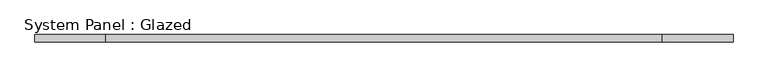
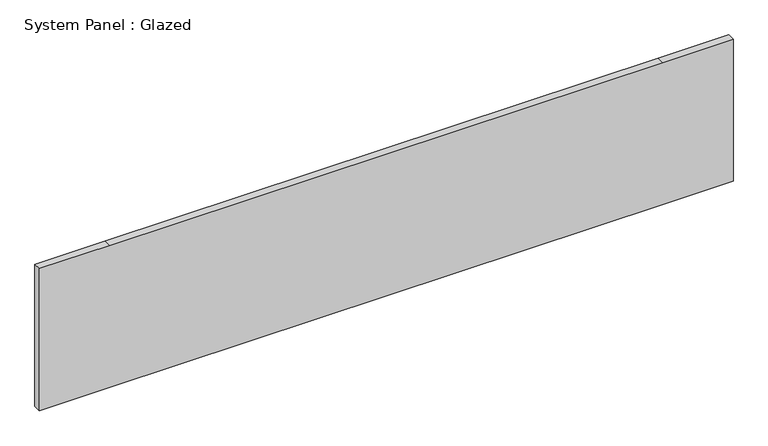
"""IFC4 building model written with IfcOpenShell, lengths in millimetres: plate geometry, System Panel : Glazed."""

from ifc_helpers import new_model, si_unit, frame, origin, place, context, project, spatial, polyline, outline, extrude, source, transform, mapped, element, save


def system_panel_glazed_5ffb59d1(model_context):
    return source(origin(), model_context, "Body", "SweptSolid", [
        extrude(outline(polyline([(0.0, -1187.45), (0.0, -946.15), (0.0, 946.15), (0.0, 1187.45), (514.35, 1187.45), (514.35, 946.15), (514.35, -946.15), (514.35, -1187.45), (0.0, -1187.45)])), frame((0.0, -44.45, 0.0), z_axis=(0.0, 1.0, 0.0), x_axis=(0.0, 0.0, 1.0)), (0.0, 0.0, 1.0), 25.4),
    ])


if __name__ == "__main__":
    model = new_model("IFC4")
    model_context = context("Model", 3, world=origin())
    ifc_project = project(units=[si_unit("LENGTHUNIT", "METRE", prefix="MILLI")], contexts=[model_context])
    site = spatial("IfcSite", under=ifc_project)
    building = spatial("IfcBuilding", under=site)
    placement = place(None, origin())
    system_panel_glazed_shape = system_panel_glazed_5ffb59d1(model_context)
    element("IfcPlate", 1, ObjectType="System Panel : Glazed", at=placement, inside=building, context=model_context, shape_type="MappedRepresentation", body=[
        mapped(system_panel_glazed_shape, transform((0.0, 0.0, 0.0), x_axis=(1.0, 0.0, 0.0), y_axis=(0.0, 1.0, 0.0), z_axis=(0.0, 0.0, 1.0))),
    ])
    save(model, "model.ifc")
